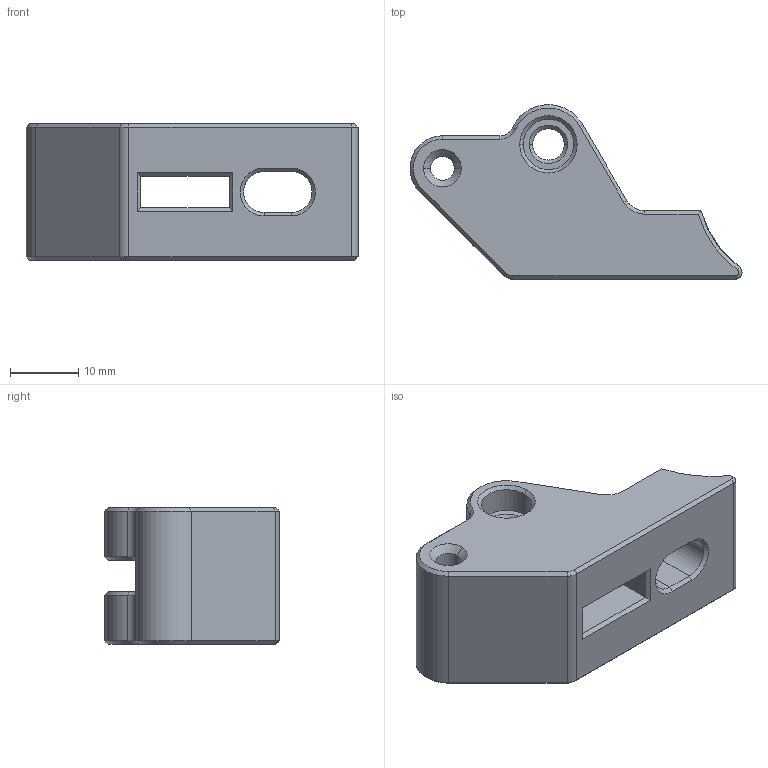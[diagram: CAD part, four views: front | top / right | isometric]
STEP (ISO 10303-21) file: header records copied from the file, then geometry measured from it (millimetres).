
FILE_DESCRIPTION(('CATIA V5 STEP Exchange'),'2;1');
FILE_NAME('D:\_이전 노트북\Cremaker모델링\Cremaker_profile-Metal(5차)-(Final)\extruder-bearing-holder.stp','2020-10-23T05:20:14+00:00',('none'),('none'),'CATIA Version 5 Release 20 GA (IN-10)','CATIA V5 STEP AP203','none');
FILE_SCHEMA(('CONFIG_CONTROL_DESIGN'));
Length unit declared in the file: millimetre
Products named in the file (1): extruder-bearing-holder
Bounding box: 48.54 x 25.5 x 20 mm (x, y, z)
Volume: 11371.8 mm3; surface area: 4971.9 mm2
Topology: 1 solids, 1 shells, 106 faces, 252 edges, 148 vertices
Faces by surface type: plane 45, cone 33, cylinder 20, bspline 7, extrusion 1
Entity records: 3445 total; most frequent: CARTESIAN_POINT 1085, ORIENTED_EDGE 504, DIRECTION 404, EDGE_CURVE 252, AXIS2_PLACEMENT_3D 161, VECTOR 154, LINE 153, VERTEX_POINT 148
